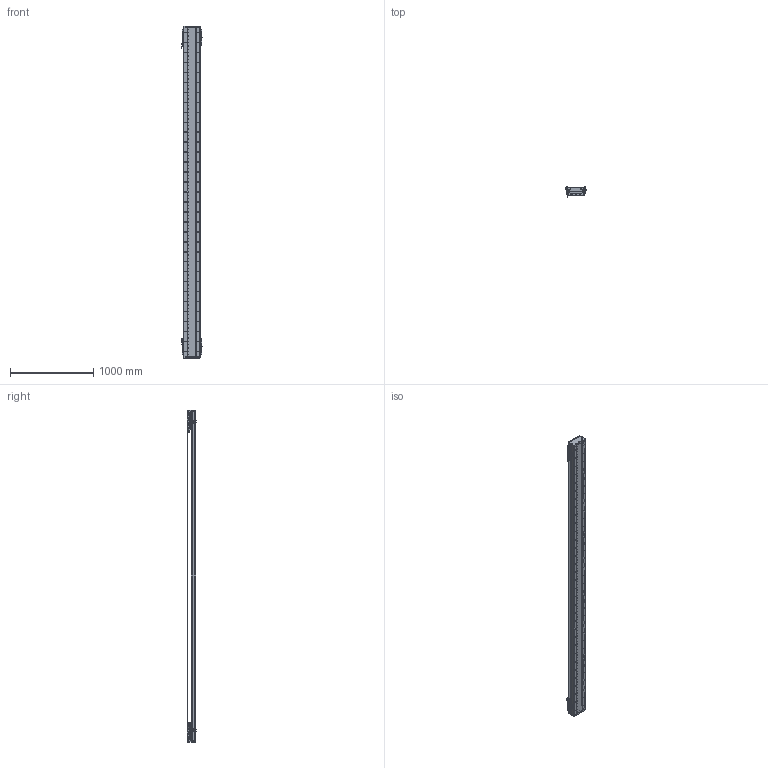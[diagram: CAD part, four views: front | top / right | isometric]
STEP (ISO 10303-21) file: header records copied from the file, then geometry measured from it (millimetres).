
FILE_DESCRIPTION (( 'STEP AP203' ), '1' );
FILE_NAME ('DA-C195-2-C2-T3500-C010-0.2 眻盄萇儂.STEP', '2025-08-14T02:18:48', ( '' ), ( '' ), 'SwSTEP 2.0', 'SolidWorks 2019', '' );
FILE_SCHEMA (( 'CONFIG_CONTROL_DESIGN' ));
Length unit declared in the file: millimetre
Products named in the file (19): DKW-KGZ-ZJ-00 中间光电开关支架-1; PM-Y65嫖萇羲壽郪璃-1; LMT黍杅芛-1; DA195詩湍郪璃-1; DKW168-HXJ-ZJ-00 笢潔滅袉砎蝶-1; DA195詩湍嶺輸-1; DA195詩湍菜輸-1; PM-T45ㄗ侂狟ㄘ-1; DA-C195-GD-DB-H-00 傷啣-1; CU195-C2賑輸-俋楷-1; IU-CU195-L 菁釱絳寢-1; DA165-GYP-00 光电感应片(默认)-1; DA-C195-2-C2-T3500-C010-0.2 眻盄萇儂; 葩璃 DA95-GT-T-00-1; MS200 棠掑喜S315-T1740-1; DA95-HXJ-00 遣喳砎蝶-1; IU-CU195-L-00 菁釱(L3960); DA195詩湍裔啣-1; DKW-GYP-ZJ-00 笢潔嫖萇覜茼え-1
Assembly tree (37 placements, depth 3):
  DA-C195-2-C2-T3500-C010-0.2 眻盄萇儂
    DA195詩湍郪璃-1
      DA195詩湍菜輸-1  x2
      DA195詩湍裔啣-1
      DA195詩湍嶺輸-1  x2
      DA95-HXJ-00 遣喳砎蝶-1  x8
      DA-C195-GD-DB-H-00 傷啣-1  x2
    IU-CU195-L 菁釱絳寢-1
      IU-CU195-L-00 菁釱(L3960)
      葩璃 DA95-GT-T-00-1  x4
    LMT黍杅芛-1  x2
    MS200 棠掑喜S315-T1740-1
    PM-T45ㄗ侂狟ㄘ-1  x4
    DA165-GYP-00 光电感应片(默认)-1  x2
    PM-Y65嫖萇羲壽郪璃-1
    DKW168-HXJ-ZJ-00 笢潔滅袉砎蝶-1
    DKW-GYP-ZJ-00 笢潔嫖萇覜茼え-1
    DKW-KGZ-ZJ-00 中间光电开关支架-1
    CU195-C2賑輸-俋楷-1  x2
Bounding box: 258.2 x 115.45 x 4000 mm (x, y, z)
Volume: 23208212.7 mm3; surface area: 6863867.2 mm2
Topology: 114 solids, 242 shells, 7575 faces, 20759 edges, 13009 vertices
Faces by surface type: cylinder 3844, plane 2647, cone 916, torus 88, sphere 72, bspline 8
Entity records: 180341 total; most frequent: CARTESIAN_POINT 52039, ORIENTED_EDGE 27350, DIRECTION 25250, EDGE_CURVE 13675, AXIS2_PLACEMENT_3D 9357, VERTEX_POINT 8896, VECTOR 6536, LINE 6536
